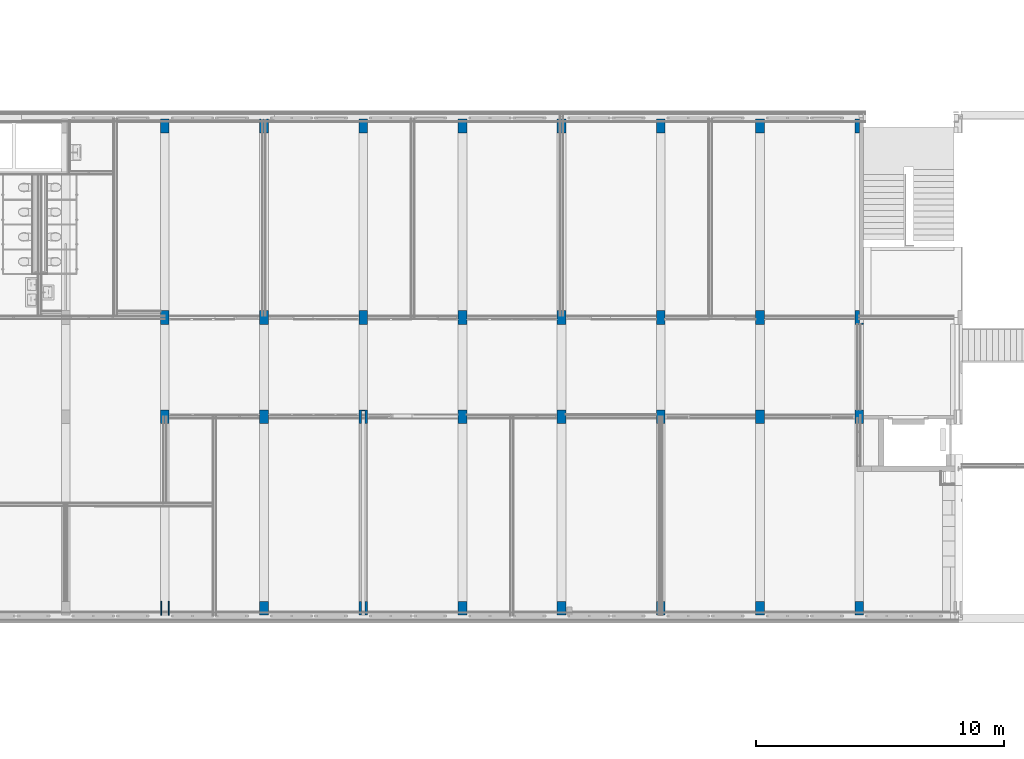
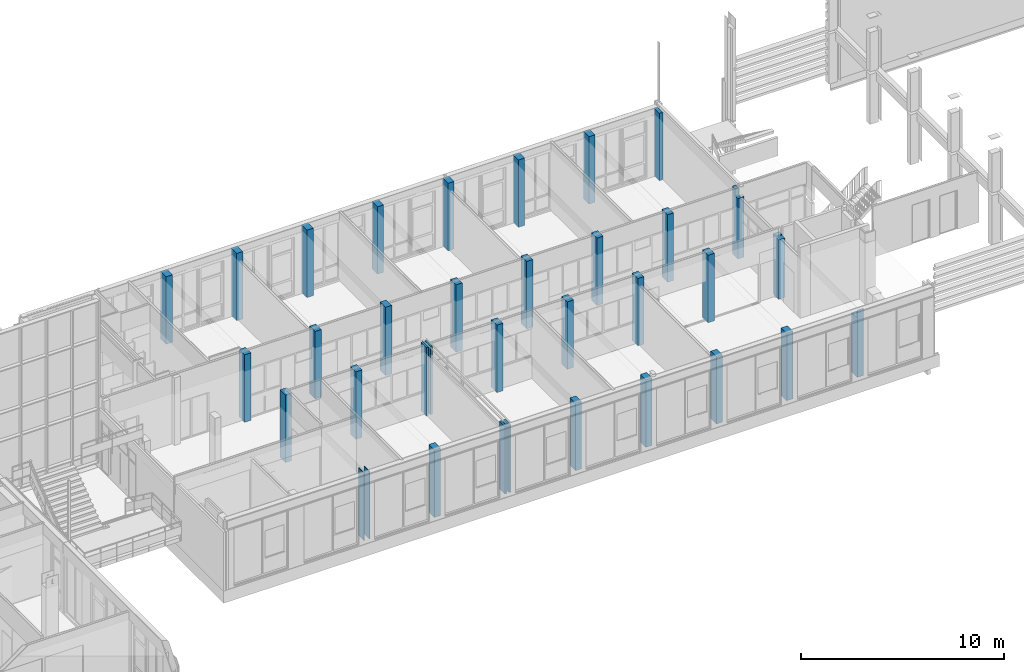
# One storey, part 11 of 94: 32 columns.
"""IFC2X3 building model written with IfcOpenShell, lengths in millimetres."""

from ifc_helpers import new_model, entity, si_unit, converted_unit, derived_unit, money_unit, direction, frame, origin_with_axes, place, context, subcontext, project, spatial, faceted_brep, material, type_object, element, save


model = new_model("IFC2X3")

# Units and contexts
model_context = context("Model", 3, precision=0.01, world=origin_with_axes(), true_north=direction((0.0, 1.0)))
body_context = subcontext(model_context, "Body", "Model", "MODEL_VIEW")
ifc_project = project(units=[si_unit("LENGTHUNIT", "METRE", prefix="MILLI"), si_unit("AREAUNIT", "SQUARE_METRE"), si_unit("VOLUMEUNIT", "CUBIC_METRE"), converted_unit("PLANEANGLEUNIT", "DEGREE", entity("IfcPlaneAngleMeasure", 0.0174532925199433), si_unit("PLANEANGLEUNIT", "RADIAN"), dimensions=[0, 0, 0, 0, 0, 0, 0]), money_unit("EUR"), converted_unit("TIMEUNIT", "Year", entity("IfcTimeMeasure", 31557600.0), si_unit("TIMEUNIT", "SECOND"), dimensions=[0, 0, 1, 0, 0, 0, 0]), si_unit("MASSUNIT", "GRAM", prefix="KILO"), si_unit("THERMODYNAMICTEMPERATUREUNIT", "DEGREE_CELSIUS"), si_unit("LUMINOUSINTENSITYUNIT", "LUMEN"), si_unit("ENERGYUNIT", "JOULE", prefix="MEGA"), derived_unit("THERMALCONDUCTANCEUNIT", [(si_unit("POWERUNIT", "WATT"), 1), (si_unit("LENGTHUNIT", "METRE"), -1), (si_unit("THERMODYNAMICTEMPERATUREUNIT", "KELVIN"), -1)]), derived_unit("SPECIFICHEATCAPACITYUNIT", [(si_unit("ENERGYUNIT", "JOULE"), 1), (si_unit("MASSUNIT", "GRAM", prefix="KILO"), -1), (si_unit("THERMODYNAMICTEMPERATUREUNIT", "KELVIN"), -1)]), derived_unit("MASSDENSITYUNIT", [(si_unit("MASSUNIT", "GRAM", prefix="KILO"), 1), (si_unit("VOLUMEUNIT", "CUBIC_METRE"), -1)])], contexts=[model_context])

# Site, building, storey
site_placement = place(None, origin_with_axes())
site = spatial("IfcSite", under=ifc_project, at=site_placement, Name="<site naam>", CompositionType="ELEMENT")
building_placement = place(site_placement, origin_with_axes())
building = spatial("IfcBuilding", under=site, at=building_placement, Name="<Naam gebouw>", CompositionType="ELEMENT")
storey_placement = place(building_placement, frame((0.0, 0.0, 4250.0), z_axis=(0.0, 0.0, 1.0), x_axis=(1.0, 0.0, 0.0)))
storey = spatial("IfcBuildingStorey", under=building, at=storey_placement, Name="01 1e verdieping", CompositionType="ELEMENT", Elevation=4250.0)

# Columns
ifc_material_1 = material(Name="betonblok C")
column_type_1 = type_object("IfcColumnType", Name="betonblok C 350 x 550", PredefinedType="COLUMN")
column_1_placement = place(storey_placement, frame((48000.00000000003, 8000.000000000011, 0.0), z_axis=(0.0, 0.0, 1.0), x_axis=(1.0, 0.0, 0.0)))
element("IfcColumn", 1, at=column_1_placement, inside=storey, type_object=column_type_1, material=ifc_material_1, Name="28_Kolom_betonblok", ObjectType="COLUMN", context=body_context, shape_type="Brep", body=[
    faceted_brep([(-174.9999999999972, 275.0000000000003, 0.0), (-174.9999999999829, 275.0000000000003, 3619.999999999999), (175.0000000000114, 275.0000000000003, 3619.999999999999), (174.9999999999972, 275.0000000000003, 0.0), (-174.9999999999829, 0.0, 3569.999999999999), (-174.9999999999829, 0.0, 3619.999999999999), (-174.9999999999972, -275.0000000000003, 0.0), (-174.9999999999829, -275.0000000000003, 3569.999999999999), (175.0000000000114, 0.0, 3619.999999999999), (175.0000000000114, 0.0, 3569.999999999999), (175.0000000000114, -275.0000000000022, 3569.999999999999), (174.9999999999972, -275.0000000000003, 0.0)], [[[0, 1, 2, 3]], [[4, 5, 1, 0, 6, 7]], [[5, 8, 2, 1]], [[3, 2, 8, 9, 10, 11]], [[3, 11, 6, 0]], [[9, 8, 5, 4]], [[11, 10, 7, 6]], [[7, 10, 9, 4]]]),
])
column_2_placement = place(storey_placement, frame((48000.00000000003, 12000.00000000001, 0.0), z_axis=(0.0, 0.0, 1.0), x_axis=(1.0, 0.0, 0.0)))
element("IfcColumn", 2, at=column_2_placement, inside=storey, type_object=column_type_1, material=ifc_material_1, Name="28_Kolom_betonblok", ObjectType="COLUMN", context=body_context, shape_type="Brep", body=[
    faceted_brep([(14.99999989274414, -224.9999999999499, 0.0), (14.99999989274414, -224.9999999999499, 3619.999999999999), (175.0000000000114, -224.9999999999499, 3619.999999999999), (174.9999998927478, -224.9999999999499, 0.0), (14.99999989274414, 5.546149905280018, 4050.000000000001), (14.99999989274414, 5.546149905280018, 3619.999999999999), (14.99999989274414, 275.0000000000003, 0.0), (14.99999989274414, 275.0000000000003, 4050.000000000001), (-174.9999999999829, -275.0000000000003, 3619.999999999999), (175.0000000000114, -275.0000000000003, 3619.999999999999), (-174.9999999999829, 5.546149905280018, 3619.999999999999), (174.9999999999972, -275.0000000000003, 0.0), (-174.9999999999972, 275.0000000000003, 0.0), (-174.9999999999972, -275.0000000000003, 0.0), (-174.9999999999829, 5.546149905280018, 4050.000000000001), (-174.9999999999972, 275.0000000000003, 4050.000000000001)], [[[0, 1, 2, 3]], [[4, 5, 1, 0, 6, 7]], [[8, 9, 2, 1, 5, 10]], [[3, 2, 9, 11]], [[12, 6, 0, 3, 11, 13]], [[10, 5, 4, 14]], [[12, 15, 7, 6]], [[15, 14, 4, 7]], [[11, 9, 8, 13]], [[8, 10, 14, 15, 12, 13]]]),
])
column_3_placement = place(storey_placement, frame((48000.00000000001, 275.0000000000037, 0.0), z_axis=(0.0, 0.0, 1.0), x_axis=(1.0, 0.0, 0.0)))
element("IfcColumn", 3, at=column_3_placement, inside=storey, type_object=column_type_1, material=ifc_material_1, Name="28_Kolom_betonblok", ObjectType="COLUMN", context=body_context, shape_type="Brep", body=[
    faceted_brep([(-174.9999999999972, 275.0000000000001, 0.0), (-174.9999999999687, 275.0000000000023, 3569.999999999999), (175.0000000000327, 274.9999999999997, 3569.999999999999), (174.9999999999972, 274.9999999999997, 0.0), (-174.9999999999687, -269.4538500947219, 4050.000000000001), (-174.9999999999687, -269.4538500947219, 3569.999999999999), (-174.9999999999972, -275.0000000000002, 0.0), (-174.9999999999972, -275.0000000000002, 4050.000000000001), (175.0000000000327, -269.4538500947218, 3569.999999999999), (175.0000000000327, -269.4538500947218, 4050.000000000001), (174.9999999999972, -275.0000000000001, 4050.000000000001), (174.9999999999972, -275.0000000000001, 0.0)], [[[0, 1, 2, 3]], [[4, 5, 1, 0, 6, 7]], [[5, 8, 2, 1]], [[2, 8, 9, 10, 11, 3]], [[3, 11, 6, 0]], [[5, 4, 9, 8]], [[10, 7, 6, 11]], [[10, 9, 4, 7]]]),
])
column_4_placement = place(storey_placement, frame((47999.99999989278, 19725.00000000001, 0.0), z_axis=(0.0, 0.0, 1.0), x_axis=(1.0, 0.0, 0.0)))
element("IfcColumn", 4, at=column_4_placement, inside=storey, type_object=column_type_1, material=ifc_material_1, Name="28_Kolom_betonblok", ObjectType="COLUMN", context=body_context, shape_type="Brep", body=[
    faceted_brep([(-174.9999999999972, -274.9999999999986, 4050.000000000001), (14.99999999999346, -274.9999999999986, 4050.000000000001), (14.99999999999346, 274.9999999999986, 4050.000000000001), (-174.9999999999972, 274.9999999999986, 4050.000000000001), (-174.9999999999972, -274.9999999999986, 0.0), (15.00000000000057, -274.9999999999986, 0.0), (15.00000000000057, 274.9999999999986, 0.0), (-174.9999999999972, 274.9999999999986, 0.0)], [[[0, 1, 2, 3]], [[4, 5, 1, 0]], [[5, 6, 2, 1]], [[3, 2, 6, 7]], [[0, 3, 7, 4]], [[7, 6, 5, 4]]]),
])
ifc_material_2 = material(Name="beton_gewapend C")
column_type_2 = type_object("IfcColumnType", Name="beton_gewapend C 350 x 550", PredefinedType="COLUMN")
column_5_placement = place(storey_placement, frame((36000.00000000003, 8000.000000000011, 0.0), z_axis=(0.0, 0.0, 1.0), x_axis=(1.0, 0.0, 0.0)))
element("IfcColumn", 5, at=column_5_placement, inside=storey, type_object=column_type_2, material=ifc_material_2, Name="28_Kolom_beton_gewapend", ObjectType="COLUMN", context=body_context, shape_type="Brep", body=[
    faceted_brep([(-174.9999999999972, -275.0000000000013, 4050.000000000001), (-174.9999999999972, -275.0000000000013, 0.0), (174.9999999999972, -275.0000000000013, 0.0), (174.9999999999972, -275.0000000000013, 4050.000000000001), (-174.9999999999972, 274.9999999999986, 4050.000000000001), (-174.9999999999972, 274.9999999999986, 0.0), (174.9999999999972, 275.0000000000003, 0.0), (174.9999999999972, 275.0000000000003, 4050.000000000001)], [[[0, 1, 2, 3]], [[4, 5, 1, 0]], [[2, 1, 5, 6]], [[3, 2, 6, 7]], [[4, 0, 3, 7]], [[7, 6, 5, 4]]]),
])
column_6_placement = place(storey_placement, frame((36000.00000000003, 12000.00000000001, 0.0), z_axis=(0.0, 0.0, 1.0), x_axis=(1.0, 0.0, 0.0)))
element("IfcColumn", 6, at=column_6_placement, inside=storey, type_object=column_type_2, material=ifc_material_2, Name="28_Kolom_beton_gewapend", ObjectType="COLUMN", context=body_context, shape_type="Brep", body=[
    faceted_brep([(-174.9999999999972, -275.0000000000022, 4050.000000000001), (-174.9999999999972, -275.0000000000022, 0.0), (174.9999999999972, -275.0000000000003, 0.0), (174.9999999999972, -275.0000000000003, 4050.000000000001), (-174.9999999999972, 274.9999999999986, 4050.000000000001), (-174.9999999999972, 274.9999999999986, 0.0), (174.9999999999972, 275.0000000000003, 0.0), (174.9999999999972, 275.0000000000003, 4050.000000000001)], [[[0, 1, 2, 3]], [[4, 5, 1, 0]], [[2, 1, 5, 6]], [[3, 2, 6, 7]], [[4, 0, 3, 7]], [[7, 6, 5, 4]]]),
])
column_7_placement = place(storey_placement, frame((36000.00000000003, 19724.99999999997, 0.0), z_axis=(0.0, 0.0, 1.0), x_axis=(1.0, 0.0, 0.0)))
element("IfcColumn", 7, at=column_7_placement, inside=storey, type_object=column_type_2, material=ifc_material_2, Name="28_Kolom_beton_gewapend", ObjectType="COLUMN", context=body_context, shape_type="Brep", body=[
    faceted_brep([(-174.9999999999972, -274.9999999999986, 4050.000000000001), (-174.9999999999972, -274.9999999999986, 0.0), (174.9999999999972, -274.9999999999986, 0.0), (174.9999999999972, -274.9999999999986, 4050.000000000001), (-174.9999999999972, 274.9999999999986, 4050.000000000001), (-174.9999999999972, 274.9999999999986, 0.0), (174.9999999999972, 274.9999999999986, 0.0), (174.9999999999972, 274.9999999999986, 4050.000000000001)], [[[0, 1, 2, 3]], [[4, 5, 1, 0]], [[2, 1, 5, 6]], [[3, 2, 6, 7]], [[4, 0, 3, 7]], [[7, 6, 5, 4]]]),
])
column_8_placement = place(storey_placement, frame((32000.00000000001, 275.0000000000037, 0.0), z_axis=(0.0, 0.0, 1.0), x_axis=(1.0, 0.0, 0.0)))
element("IfcColumn", 8, at=column_8_placement, inside=storey, type_object=column_type_2, material=ifc_material_2, Name="28_Kolom_beton_gewapend", ObjectType="COLUMN", context=body_context, shape_type="Brep", body=[
    faceted_brep([(-175.0000000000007, -275.0, 4050.000000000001), (-175.0000000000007, -275.0, 0.0), (174.9999999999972, -275.0, 0.0), (174.9999999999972, -275.0, 4050.000000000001), (-175.0000000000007, 275.0000000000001, 4050.000000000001), (-175.0000000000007, 275.0000000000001, 0.0), (174.9999999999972, 274.9999999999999, 0.0), (174.9999999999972, 274.9999999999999, 4050.000000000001)], [[[0, 1, 2, 3]], [[4, 5, 1, 0]], [[2, 1, 5, 6]], [[3, 2, 6, 7]], [[4, 0, 3, 7]], [[7, 6, 5, 4]]]),
])
column_9_placement = place(storey_placement, frame((32000.00000000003, 12000.00000000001, 0.0), z_axis=(0.0, 0.0, 1.0), x_axis=(1.0, 0.0, 0.0)))
element("IfcColumn", 9, at=column_9_placement, inside=storey, type_object=column_type_2, material=ifc_material_2, Name="28_Kolom_beton_gewapend", ObjectType="COLUMN", context=body_context, shape_type="Brep", body=[
    faceted_brep([(-175.0000000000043, -275.0000000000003, 4050.000000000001), (-175.0000000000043, -275.0000000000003, 0.0), (174.9999999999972, -275.0000000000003, 0.0), (174.9999999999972, -275.0000000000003, 4050.000000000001), (-175.0000000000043, 275.0000000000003, 4050.000000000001), (-175.0000000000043, 275.0000000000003, 0.0), (174.9999999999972, 275.0000000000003, 0.0), (174.9999999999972, 275.0000000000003, 4050.000000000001)], [[[0, 1, 2, 3]], [[4, 5, 1, 0]], [[2, 1, 5, 6]], [[3, 2, 6, 7]], [[4, 0, 3, 7]], [[7, 6, 5, 4]]]),
])
column_10_placement = place(storey_placement, frame((32000.00000000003, 19724.99999999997, 0.0), z_axis=(0.0, 0.0, 1.0), x_axis=(1.0, 0.0, 0.0)))
element("IfcColumn", 10, at=column_10_placement, inside=storey, type_object=column_type_2, material=ifc_material_2, Name="28_Kolom_beton_gewapend", ObjectType="COLUMN", context=body_context, shape_type="Brep", body=[
    faceted_brep([(-174.9999999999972, -274.9999999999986, 4050.000000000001), (-174.9999999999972, -274.9999999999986, 0.0), (174.9999999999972, -274.9999999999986, 0.0), (174.9999999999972, -274.9999999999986, 4050.000000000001), (-174.9999999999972, 274.9999999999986, 4050.000000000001), (-174.9999999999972, 274.9999999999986, 0.0), (174.9999999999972, 274.9999999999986, 0.0), (174.9999999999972, 274.9999999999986, 4050.000000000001)], [[[0, 1, 2, 3]], [[4, 5, 1, 0]], [[2, 1, 5, 6]], [[3, 2, 6, 7]], [[4, 0, 3, 7]], [[7, 6, 5, 4]]]),
])
column_11_placement = place(storey_placement, frame((32000.00000000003, 8000.000000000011, 0.0), z_axis=(0.0, 0.0, 1.0), x_axis=(1.0, 0.0, 0.0)))
element("IfcColumn", 11, at=column_11_placement, inside=storey, type_object=column_type_2, material=ifc_material_2, Name="28_Kolom_beton_gewapend", ObjectType="COLUMN", context=body_context, shape_type="Brep", body=[
    faceted_brep([(-175.0000000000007, -275.0000000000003, 4050.000000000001), (-175.0000000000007, -275.0000000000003, 0.0), (174.9999999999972, -275.0000000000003, 0.0), (174.9999999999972, -275.0000000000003, 4050.000000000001), (-175.0000000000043, 275.0000000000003, 4050.000000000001), (-175.0000000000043, 275.0000000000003, 0.0), (174.9999999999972, 275.0000000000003, 0.0), (174.9999999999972, 275.0000000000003, 4050.000000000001)], [[[0, 1, 2, 3]], [[4, 5, 1, 0]], [[2, 1, 5, 6]], [[3, 2, 6, 7]], [[4, 0, 3, 7]], [[7, 6, 5, 4]]]),
])
column_12_placement = place(storey_placement, frame((28000.00000000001, 275.0000000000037, 0.0), z_axis=(0.0, 0.0, 1.0), x_axis=(1.0, 0.0, 0.0)))
element("IfcColumn", 12, at=column_12_placement, inside=storey, type_object=column_type_2, material=ifc_material_2, Name="28_Kolom_beton_gewapend", ObjectType="COLUMN", context=body_context, shape_type="Brep", body=[
    faceted_brep([(-175.0000000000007, -275.0000000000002, 4050.000000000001), (-64.99999999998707, -274.9999999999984, 4050.000000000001), (-64.99999999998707, 275.0000000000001, 4050.000000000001), (-175.0000000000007, 275.0000000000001, 4050.000000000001), (-175.0000000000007, -275.0000000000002, 0.0), (-64.99999999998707, -274.9999999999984, 0.0), (-64.99999999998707, 275.0000000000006, 0.0), (-175.0000000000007, 275.0000000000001, 0.0)], [[[0, 1, 2, 3]], [[4, 5, 1, 0]], [[5, 6, 2, 1]], [[3, 2, 6, 7]], [[0, 3, 7, 4]], [[7, 6, 5, 4]]]),
    faceted_brep([(175.0000000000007, 274.9999999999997, 0.0), (65.00000000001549, 274.9999999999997, 0.0), (65.00000000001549, 274.9999999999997, 4050.000000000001), (175.0000000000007, 274.9999999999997, 4050.000000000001), (175.0000000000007, -275.0000000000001, 0.0), (65.00000000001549, -274.9999999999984, 0.0), (65.00000000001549, -274.9999999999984, 4050.000000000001), (175.0000000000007, -275.0000000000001, 4050.000000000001)], [[[0, 1, 2, 3]], [[4, 5, 1, 0]], [[5, 6, 2, 1]], [[3, 2, 6, 7]], [[3, 7, 4, 0]], [[7, 6, 5, 4]]]),
])
column_13_placement = place(storey_placement, frame((28000.00000000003, 8000.000000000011, 0.0), z_axis=(0.0, 0.0, 1.0), x_axis=(1.0, 0.0, 0.0)))
element("IfcColumn", 13, at=column_13_placement, inside=storey, type_object=column_type_2, material=ifc_material_2, Name="28_Kolom_beton_gewapend", ObjectType="COLUMN", context=body_context, shape_type="Brep", body=[
    faceted_brep([(-175.0000000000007, 274.9999999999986, 4100.0), (-174.9999999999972, -275.0000000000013, 4100.0), (-64.99999999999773, -275.0000000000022, 4100.000000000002), (-65.00000000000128, 225.0000000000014, 4100.000000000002), (65.00000000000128, 225.0000000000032, 4100.000000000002), (65.00000000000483, -275.0000000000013, 4100.000000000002), (175.0000000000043, -275.0000000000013, 4100.0), (175.0000000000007, 275.0000000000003, 4100.0), (-174.9999999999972, -275.0000000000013, 0.0), (-175.0000000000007, 274.9999999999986, 0.0), (-64.99999999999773, -275.0000000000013, 0.0), (-65.00000000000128, 225.0000000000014, 0.0), (65.00000000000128, 225.0000000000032, 0.0), (65.00000000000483, -275.0000000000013, 0.0), (175.0000000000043, -275.0000000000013, 0.0), (175.0000000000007, 275.0000000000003, 0.0)], [[[0, 1, 2, 3, 4, 5, 6, 7]], [[8, 1, 0, 9]], [[1, 8, 10, 2]], [[10, 11, 3, 2]], [[11, 12, 4, 3]], [[12, 13, 5, 4]], [[14, 6, 5, 13]], [[15, 7, 6, 14]], [[9, 0, 7, 15]], [[13, 12, 11, 10, 8, 9, 15, 14]]]),
])
column_14_placement = place(storey_placement, frame((28000.00000000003, 12000.00000000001, 0.0), z_axis=(0.0, 0.0, 1.0), x_axis=(1.0, 0.0, 0.0)))
element("IfcColumn", 14, at=column_14_placement, inside=storey, type_object=column_type_2, material=ifc_material_2, Name="28_Kolom_beton_gewapend", ObjectType="COLUMN", context=body_context, shape_type="Brep", body=[
    faceted_brep([(175.0000000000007, -275.0000000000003, 4100.0), (-175.0000000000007, -275.0000000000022, 4100.0), (-175.0000000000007, -275.0000000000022, 0.0), (175.0000000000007, -275.0000000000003, 0.0), (175.0000000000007, 275.0000000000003, 4100.0), (-175.0000000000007, 274.9999999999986, 4100.0), (-175.0000000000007, 274.9999999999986, 0.0), (175.0000000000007, 275.0000000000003, 0.0)], [[[0, 1, 2, 3]], [[4, 5, 1, 0]], [[1, 5, 6, 2]], [[7, 3, 2, 6]], [[4, 0, 3, 7]], [[5, 4, 7, 6]]]),
])
column_15_placement = place(storey_placement, frame((28000.00000000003, 19724.99999999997, 0.0), z_axis=(0.0, 0.0, 1.0), x_axis=(1.0, 0.0, 0.0)))
element("IfcColumn", 15, at=column_15_placement, inside=storey, type_object=column_type_2, material=ifc_material_2, Name="28_Kolom_beton_gewapend", ObjectType="COLUMN", context=body_context, shape_type="Brep", body=[
    faceted_brep([(-175.0000000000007, -274.9999999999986, 4050.000000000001), (-175.0000000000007, -274.9999999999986, 0.0), (175.0000000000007, -274.9999999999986, 0.0), (175.0000000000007, -274.9999999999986, 4050.000000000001), (-175.0000000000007, 274.9999999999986, 4050.000000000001), (-175.0000000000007, 274.9999999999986, 0.0), (175.0000000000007, 274.9999999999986, 0.0), (175.0000000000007, 274.9999999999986, 4050.000000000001)], [[[0, 1, 2, 3]], [[4, 5, 1, 0]], [[2, 1, 5, 6]], [[3, 2, 6, 7]], [[4, 0, 3, 7]], [[7, 6, 5, 4]]]),
])
column_16_placement = place(storey_placement, frame((20000.00000000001, 275.0000000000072, 0.0), z_axis=(0.0, 0.0, 1.0), x_axis=(1.0, 0.0, 0.0)))
element("IfcColumn", 16, at=column_16_placement, inside=storey, type_object=column_type_2, material=ifc_material_2, Name="28_Kolom_beton_gewapend", ObjectType="COLUMN", context=body_context, shape_type="Brep", body=[
    faceted_brep([(-134.9999999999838, -274.9999999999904, 4050.000000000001), (-134.9999999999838, 275.0000000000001, 4050.000000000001), (-175.0000000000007, 275.0000000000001, 4050.000000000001), (-175.0000000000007, -275.0000000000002, 4050.000000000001), (-134.9999999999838, 275.0000000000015, 0.0), (-134.9999999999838, -274.9999999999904, 0.0), (-175.0000000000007, 275.0000000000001, 0.0), (-175.0000000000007, -275.0000000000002, 0.0)], [[[0, 1, 2, 3]], [[4, 1, 0, 5]], [[1, 4, 6, 2]], [[3, 2, 6, 7]], [[5, 0, 3, 7]], [[4, 5, 7, 6]]]),
    faceted_brep([(135.0000000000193, 274.9999999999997, 0.0), (135.0000000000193, 274.9999999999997, 4050.000000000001), (175.0000000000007, 274.9999999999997, 4050.000000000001), (175.0000000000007, 274.9999999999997, 0.0), (135.0000000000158, -274.9999999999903, 4050.000000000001), (135.0000000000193, -274.9999999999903, 0.0), (175.0000000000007, -275.0000000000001, 4050.000000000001), (175.0000000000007, -275.0000000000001, 0.0)], [[[0, 1, 2, 3]], [[4, 1, 0, 5]], [[1, 4, 6, 2]], [[2, 6, 7, 3]], [[5, 0, 3, 7]], [[4, 5, 7, 6]]]),
])
column_17_placement = place(storey_placement, frame((24000.00000000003, 19724.99999999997, 0.0), z_axis=(0.0, 0.0, 1.0), x_axis=(1.0, 0.0, 0.0)))
element("IfcColumn", 17, at=column_17_placement, inside=storey, type_object=column_type_2, material=ifc_material_2, Name="28_Kolom_beton_gewapend", ObjectType="COLUMN", context=body_context, shape_type="Brep", body=[
    faceted_brep([(-175.0000000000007, -275.0000000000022, 4050.000000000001), (-175.0000000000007, -275.0000000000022, 0.0), (175.0000000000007, -274.9999999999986, 0.0), (175.0000000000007, -274.9999999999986, 4050.000000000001), (-175.0000000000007, 274.999999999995, 4050.000000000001), (-175.0000000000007, 274.999999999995, 0.0), (175.0000000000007, 274.9999999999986, 0.0), (175.0000000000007, 274.9999999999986, 4050.000000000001)], [[[0, 1, 2, 3]], [[4, 5, 1, 0]], [[2, 1, 5, 6]], [[3, 2, 6, 7]], [[4, 0, 3, 7]], [[7, 6, 5, 4]]]),
])
column_18_placement = place(storey_placement, frame((36000.00000000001, 275.0000000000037, 0.0), z_axis=(0.0, 0.0, 1.0), x_axis=(1.0, 0.0, 0.0)))
element("IfcColumn", 18, at=column_18_placement, inside=storey, type_object=column_type_2, material=ifc_material_2, Name="28_Kolom_beton_gewapend", ObjectType="COLUMN", context=body_context, shape_type="Brep", body=[
    faceted_brep([(-174.9999999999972, -275.0, 4050.000000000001), (-174.9999999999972, -275.0, 0.0), (174.9999999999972, -275.0, 0.0), (174.9999999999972, -275.0, 4050.000000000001), (-174.9999999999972, 275.0000000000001, 4050.000000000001), (-174.9999999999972, 275.0000000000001, 0.0), (174.9999999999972, 274.9999999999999, 0.0), (174.9999999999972, 274.9999999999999, 4050.000000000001)], [[[0, 1, 2, 3]], [[4, 5, 1, 0]], [[2, 1, 5, 6]], [[3, 2, 6, 7]], [[4, 0, 3, 7]], [[7, 6, 5, 4]]]),
])
column_19_placement = place(storey_placement, frame((24000.00000000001, 275.0000000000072, 0.0), z_axis=(0.0, 0.0, 1.0), x_axis=(1.0, 0.0, 0.0)))
element("IfcColumn", 19, at=column_19_placement, inside=storey, type_object=column_type_2, material=ifc_material_2, Name="28_Kolom_beton_gewapend", ObjectType="COLUMN", context=body_context, shape_type="Brep", body=[
    faceted_brep([(-175.0000000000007, -275.0, 4050.000000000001), (-175.0000000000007, -275.0, 0.0), (175.0000000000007, -275.0, 0.0), (175.0000000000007, -275.0, 4050.000000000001), (-175.0000000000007, 275.0000000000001, 4050.000000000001), (-175.0000000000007, 275.0000000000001, 0.0), (175.0000000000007, 274.9999999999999, 0.0), (175.0000000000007, 274.9999999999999, 4050.000000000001)], [[[0, 1, 2, 3]], [[4, 5, 1, 0]], [[2, 1, 5, 6]], [[3, 2, 6, 7]], [[4, 0, 3, 7]], [[7, 6, 5, 4]]]),
])
column_20_placement = place(storey_placement, frame((24000.00000000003, 12000.00000000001, 0.0), z_axis=(0.0, 0.0, 1.0), x_axis=(1.0, 0.0, 0.0)))
element("IfcColumn", 20, at=column_20_placement, inside=storey, type_object=column_type_2, material=ifc_material_2, Name="28_Kolom_beton_gewapend", ObjectType="COLUMN", context=body_context, shape_type="Brep", body=[
    faceted_brep([(-175.0000000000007, -275.0000000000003, 4050.000000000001), (-175.0000000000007, -275.0000000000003, 0.0), (175.0000000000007, -275.0000000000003, 0.0), (175.0000000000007, -275.0000000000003, 4050.000000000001), (-175.0000000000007, 275.0000000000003, 4050.000000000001), (-175.0000000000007, 275.0000000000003, 0.0), (175.0000000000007, 275.0000000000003, 0.0), (175.0000000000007, 275.0000000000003, 4050.000000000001)], [[[0, 1, 2, 3]], [[4, 5, 1, 0]], [[2, 1, 5, 6]], [[3, 2, 6, 7]], [[4, 0, 3, 7]], [[7, 6, 5, 4]]]),
])
column_21_placement = place(storey_placement, frame((20000.00000000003, 8000.000000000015, 0.0), z_axis=(0.0, 0.0, 1.0), x_axis=(1.0, 0.0, 0.0)))
element("IfcColumn", 21, at=column_21_placement, inside=storey, type_object=column_type_2, material=ifc_material_2, Name="28_Kolom_beton_gewapend", ObjectType="COLUMN", context=body_context, shape_type="Brep", body=[
    faceted_brep([(-174.9999999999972, -275.0000000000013, 4050.000000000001), (-174.9999999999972, -275.0000000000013, 0.0), (175.0000000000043, -275.0000000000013, 0.0), (175.0000000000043, -275.0000000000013, 4050.000000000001), (-175.0000000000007, 274.9999999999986, 4050.000000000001), (-175.0000000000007, 274.9999999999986, 0.0), (175.0000000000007, 275.0000000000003, 0.0), (175.0000000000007, 275.0000000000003, 4050.000000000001)], [[[0, 1, 2, 3]], [[4, 5, 1, 0]], [[2, 1, 5, 6]], [[3, 2, 6, 7]], [[4, 0, 3, 7]], [[7, 6, 5, 4]]]),
])
column_22_placement = place(storey_placement, frame((24000.00000000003, 8000.000000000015, 0.0), z_axis=(0.0, 0.0, 1.0), x_axis=(1.0, 0.0, 0.0)))
element("IfcColumn", 22, at=column_22_placement, inside=storey, type_object=column_type_2, material=ifc_material_2, Name="28_Kolom_beton_gewapend", ObjectType="COLUMN", context=body_context, shape_type="Brep", body=[
    faceted_brep([(-174.9999999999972, -275.0000000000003, 4050.000000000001), (-174.9999999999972, -275.0000000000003, 0.0), (175.0000000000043, -275.0000000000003, 0.0), (175.0000000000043, -275.0000000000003, 4050.000000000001), (-175.0000000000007, 275.0000000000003, 4050.000000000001), (-175.0000000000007, 275.0000000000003, 0.0), (175.0000000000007, 275.0000000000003, 0.0), (175.0000000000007, 275.0000000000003, 4050.000000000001)], [[[0, 1, 2, 3]], [[4, 5, 1, 0]], [[2, 1, 5, 6]], [[3, 2, 6, 7]], [[4, 0, 3, 7]], [[7, 6, 5, 4]]]),
])
column_23_placement = place(storey_placement, frame((20000.00000000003, 12000.00000000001, 0.0), z_axis=(0.0, 0.0, 1.0), x_axis=(1.0, 0.0, 0.0)))
element("IfcColumn", 23, at=column_23_placement, inside=storey, type_object=column_type_2, material=ifc_material_2, Name="28_Kolom_beton_gewapend", ObjectType="COLUMN", context=body_context, shape_type="Brep", body=[
    faceted_brep([(-175.0000000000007, -275.0000000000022, 4050.000000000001), (-175.0000000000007, -275.0000000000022, 0.0), (175.0000000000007, -275.0000000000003, 0.0), (175.0000000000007, -275.0000000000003, 4050.000000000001), (-175.0000000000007, 274.9999999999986, 4050.000000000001), (-175.0000000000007, 274.9999999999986, 0.0), (175.0000000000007, 275.0000000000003, 0.0), (175.0000000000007, 275.0000000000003, 4050.000000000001)], [[[0, 1, 2, 3]], [[4, 5, 1, 0]], [[2, 1, 5, 6]], [[3, 2, 6, 7]], [[4, 0, 3, 7]], [[7, 6, 5, 4]]]),
])
column_24_placement = place(storey_placement, frame((44000.00000000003, 19724.99999999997, 0.0), z_axis=(0.0, 0.0, 1.0), x_axis=(1.0, 0.0, 0.0)))
element("IfcColumn", 24, at=column_24_placement, inside=storey, type_object=column_type_2, material=ifc_material_2, Name="28_Kolom_beton_gewapend", ObjectType="COLUMN", context=body_context, shape_type="Brep", body=[
    faceted_brep([(-174.9999999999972, -274.9999999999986, 4050.000000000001), (-174.9999999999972, -274.9999999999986, 0.0), (174.9999999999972, -274.9999999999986, 0.0), (174.9999999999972, -274.9999999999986, 4050.000000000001), (-174.9999999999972, 274.9999999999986, 4050.000000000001), (-174.9999999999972, 274.9999999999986, 0.0), (174.9999999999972, 274.9999999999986, 0.0), (174.9999999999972, 274.9999999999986, 4050.000000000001)], [[[0, 1, 2, 3]], [[4, 5, 1, 0]], [[2, 1, 5, 6]], [[3, 2, 6, 7]], [[4, 0, 3, 7]], [[7, 6, 5, 4]]]),
])
column_25_placement = place(storey_placement, frame((44000.00000000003, 12000.00000000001, 0.0), z_axis=(0.0, 0.0, 1.0), x_axis=(1.0, 0.0, 0.0)))
element("IfcColumn", 25, at=column_25_placement, inside=storey, type_object=column_type_2, material=ifc_material_2, Name="28_Kolom_beton_gewapend", ObjectType="COLUMN", context=body_context, shape_type="Brep", body=[
    faceted_brep([(-174.9999999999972, -275.0000000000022, 4050.000000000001), (-174.9999999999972, -275.0000000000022, 0.0), (174.9999999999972, -275.0000000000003, 0.0), (174.9999999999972, -275.0000000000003, 4050.000000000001), (-174.9999999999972, 274.9999999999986, 4050.000000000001), (-174.9999999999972, 274.9999999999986, 0.0), (174.9999999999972, 275.0000000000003, 0.0), (174.9999999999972, 275.0000000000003, 4050.000000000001)], [[[0, 1, 2, 3]], [[4, 5, 1, 0]], [[2, 1, 5, 6]], [[3, 2, 6, 7]], [[4, 0, 3, 7]], [[7, 6, 5, 4]]]),
])
column_26_placement = place(storey_placement, frame((20000.00000000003, 19724.99999999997, 0.0), z_axis=(0.0, 0.0, 1.0), x_axis=(1.0, 0.0, 0.0)))
element("IfcColumn", 26, at=column_26_placement, inside=storey, type_object=column_type_2, material=ifc_material_2, Name="28_Kolom_beton_gewapend", ObjectType="COLUMN", context=body_context, shape_type="Brep", body=[
    faceted_brep([(-175.0000000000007, -274.9999999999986, 4050.000000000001), (-175.0000000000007, -274.9999999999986, 0.0), (175.0000000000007, -274.9999999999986, 0.0), (175.0000000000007, -274.9999999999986, 4050.000000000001), (-175.0000000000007, 274.9999999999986, 4050.000000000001), (-175.0000000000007, 274.9999999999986, 0.0), (175.0000000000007, 274.9999999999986, 0.0), (175.0000000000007, 274.9999999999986, 4050.000000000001)], [[[0, 1, 2, 3]], [[4, 5, 1, 0]], [[2, 1, 5, 6]], [[3, 2, 6, 7]], [[4, 0, 3, 7]], [[7, 6, 5, 4]]]),
])
column_27_placement = place(storey_placement, frame((40000.00000000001, 275.0000000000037, 0.0), z_axis=(0.0, 0.0, 1.0), x_axis=(1.0, 0.0, 0.0)))
element("IfcColumn", 27, at=column_27_placement, inside=storey, type_object=column_type_2, material=ifc_material_2, Name="28_Kolom_beton_gewapend", ObjectType="COLUMN", context=body_context, shape_type="Brep", body=[
    faceted_brep([(-174.9999999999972, -275.0, 4050.000000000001), (-174.9999999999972, -275.0, 0.0), (174.9999999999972, -275.0, 0.0), (174.9999999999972, -275.0, 4050.000000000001), (-174.9999999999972, 275.0000000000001, 4050.000000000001), (-174.9999999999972, 275.0000000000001, 0.0), (174.9999999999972, 274.9999999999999, 0.0), (174.9999999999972, 274.9999999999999, 4050.000000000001)], [[[0, 1, 2, 3]], [[4, 5, 1, 0]], [[2, 1, 5, 6]], [[3, 2, 6, 7]], [[4, 0, 3, 7]], [[7, 6, 5, 4]]]),
])
for number, where, z_axis, x_axis, name in (
    (28, (40000.00000000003, 8000.000000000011, 0.0), (0.0, 0.0, 1.0), (1.0, 0.0, 0.0), "28_Kolom_beton_gewapend"),
    (29, (40000.00000000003, 12000.00000000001, 0.0), (0.0, 0.0, 1.0), (1.0, 0.0, 0.0), "28_Kolom_beton_gewapend"),
):
    element("IfcColumn", number, at=place(storey_placement, frame(where, z_axis=z_axis, x_axis=x_axis)), inside=storey, type_object=column_type_2, material=ifc_material_2, Name=name, ObjectType="COLUMN", context=body_context, shape_type="Brep", body=[
        faceted_brep([(-174.9999999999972, -275.0000000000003, 4050.000000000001), (-174.9999999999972, -275.0000000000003, 0.0), (174.9999999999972, -275.0000000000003, 0.0), (174.9999999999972, -275.0000000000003, 4050.000000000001), (-174.9999999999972, 275.0000000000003, 4050.000000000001), (-174.9999999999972, 275.0000000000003, 0.0), (174.9999999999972, 275.0000000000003, 0.0), (174.9999999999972, 275.0000000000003, 4050.000000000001)], [[[0, 1, 2, 3]], [[4, 5, 1, 0]], [[2, 1, 5, 6]], [[3, 2, 6, 7]], [[4, 0, 3, 7]], [[7, 6, 5, 4]]]),
    ])
column_28_placement = place(storey_placement, frame((40000.00000000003, 19724.99999999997, 0.0), z_axis=(0.0, 0.0, 1.0), x_axis=(1.0, 0.0, 0.0)))
element("IfcColumn", 30, at=column_28_placement, inside=storey, type_object=column_type_2, material=ifc_material_2, Name="28_Kolom_beton_gewapend", ObjectType="COLUMN", context=body_context, shape_type="Brep", body=[
    faceted_brep([(-174.9999999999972, -275.0000000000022, 4050.000000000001), (-174.9999999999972, -275.0000000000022, 0.0), (174.9999999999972, -274.9999999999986, 0.0), (174.9999999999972, -274.9999999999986, 4050.000000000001), (-174.9999999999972, 274.999999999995, 4050.000000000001), (-174.9999999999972, 274.999999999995, 0.0), (174.9999999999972, 274.9999999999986, 0.0), (174.9999999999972, 274.9999999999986, 4050.000000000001)], [[[0, 1, 2, 3]], [[4, 5, 1, 0]], [[2, 1, 5, 6]], [[3, 2, 6, 7]], [[4, 0, 3, 7]], [[7, 6, 5, 4]]]),
])
column_29_placement = place(storey_placement, frame((44000.00000000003, 8000.000000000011, 0.0), z_axis=(0.0, 0.0, 1.0), x_axis=(1.0, 0.0, 0.0)))
element("IfcColumn", 31, at=column_29_placement, inside=storey, type_object=column_type_2, material=ifc_material_2, Name="28_Kolom_beton_gewapend", ObjectType="COLUMN", context=body_context, shape_type="Brep", body=[
    faceted_brep([(-174.9999999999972, -275.0000000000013, 4050.000000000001), (-174.9999999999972, -275.0000000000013, 0.0), (174.9999999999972, -275.0000000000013, 0.0), (174.9999999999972, -275.0000000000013, 4050.000000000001), (-174.9999999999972, 274.9999999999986, 4050.000000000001), (-174.9999999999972, 274.9999999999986, 0.0), (174.9999999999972, 275.0000000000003, 0.0), (174.9999999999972, 275.0000000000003, 4050.000000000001)], [[[0, 1, 2, 3]], [[4, 5, 1, 0]], [[2, 1, 5, 6]], [[3, 2, 6, 7]], [[4, 0, 3, 7]], [[7, 6, 5, 4]]]),
])
column_30_placement = place(storey_placement, frame((44000.00000000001, 275.0000000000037, 0.0), z_axis=(0.0, 0.0, 1.0), x_axis=(1.0, 0.0, 0.0)))
element("IfcColumn", 32, at=column_30_placement, inside=storey, type_object=column_type_2, material=ifc_material_2, Name="28_Kolom_beton_gewapend", ObjectType="COLUMN", context=body_context, shape_type="Brep", body=[
    faceted_brep([(-174.9999999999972, -275.0, 4050.000000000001), (-174.9999999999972, -275.0, 0.0), (174.9999999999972, -275.0, 0.0), (174.9999999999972, -275.0, 4050.000000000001), (-174.9999999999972, 275.0000000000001, 4050.000000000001), (-174.9999999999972, 275.0000000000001, 0.0), (174.9999999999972, 274.9999999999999, 0.0), (174.9999999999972, 274.9999999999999, 4050.000000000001)], [[[0, 1, 2, 3]], [[4, 5, 1, 0]], [[2, 1, 5, 6]], [[3, 2, 6, 7]], [[4, 0, 3, 7]], [[7, 6, 5, 4]]]),
])

save(model, "model.ifc")
